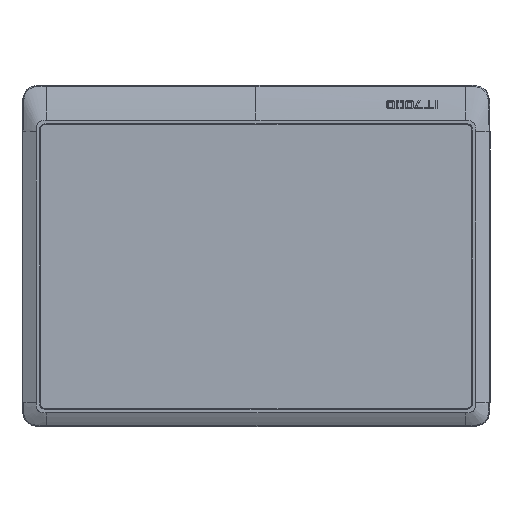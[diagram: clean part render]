
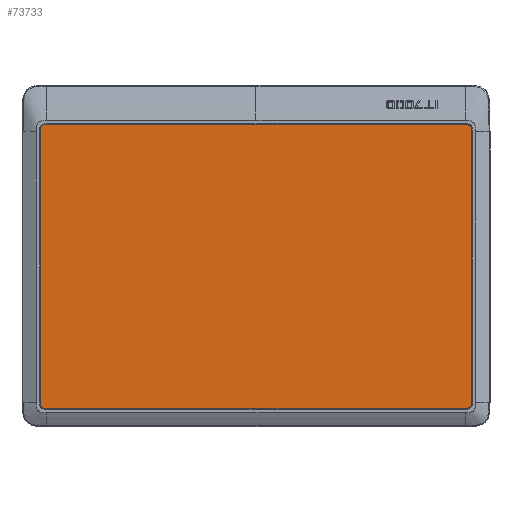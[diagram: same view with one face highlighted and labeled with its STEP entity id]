
A CAD part, top view. The second image highlights one B-rep face of the part: STEP entity #73733.
In plain terms, the highlighted planar face has unit normal (0, 0, 1).
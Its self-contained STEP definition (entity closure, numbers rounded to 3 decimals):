
#5572=DIRECTION('',(-1.,0.,0.));
#5573=VECTOR('',#5572,179.55);
#5574=CARTESIAN_POINT('',(89.775,-57.73,3.5));
#5575=LINE('',#5574,#5573);
#5576=CARTESIAN_POINT('',(-89.775,-55.23,3.5));
#5577=DIRECTION('',(0.,0.,-1.));
#5578=DIRECTION('',(0.,-1.,0.));
#5579=AXIS2_PLACEMENT_3D('',#5576,#5577,#5578);
#5581=DIRECTION('',(0.,1.,0.));
#5582=VECTOR('',#5581,116.55);
#5583=CARTESIAN_POINT('',(-92.275,-55.23,3.5));
#5584=LINE('',#5583,#5582);
#5585=CARTESIAN_POINT('',(-89.775,61.32,3.5));
#5586=DIRECTION('',(0.,0.,-1.));
#5587=DIRECTION('',(-1.,0.,0.));
#5588=AXIS2_PLACEMENT_3D('',#5585,#5586,#5587);
#5590=DIRECTION('',(1.,0.,0.));
#5591=VECTOR('',#5590,179.55);
#5592=CARTESIAN_POINT('',(-89.775,63.82,3.5));
#5593=LINE('',#5592,#5591);
#5594=CARTESIAN_POINT('',(89.775,61.32,3.5));
#5595=DIRECTION('',(0.,0.,-1.));
#5596=DIRECTION('',(0.,1.,0.));
#5597=AXIS2_PLACEMENT_3D('',#5594,#5595,#5596);
#5599=DIRECTION('',(0.,-1.,0.));
#5600=VECTOR('',#5599,116.55);
#5601=CARTESIAN_POINT('',(92.275,61.32,3.5));
#5602=LINE('',#5601,#5600);
#5603=CARTESIAN_POINT('',(89.775,-55.23,3.5));
#5604=DIRECTION('',(0.,0.,-1.));
#5605=DIRECTION('',(1.,0.,0.));
#5606=AXIS2_PLACEMENT_3D('',#5603,#5604,#5605);
#56703=CARTESIAN_POINT('',(-89.775,-57.73,3.5));
#56704=VERTEX_POINT('',#56703);
#56705=CARTESIAN_POINT('',(89.775,-57.73,3.5));
#56706=VERTEX_POINT('',#56705);
#56707=CARTESIAN_POINT('',(-92.275,-55.23,3.5));
#56708=VERTEX_POINT('',#56707);
#56709=CARTESIAN_POINT('',(-92.275,61.32,3.5));
#56710=VERTEX_POINT('',#56709);
#56711=CARTESIAN_POINT('',(-89.775,63.82,3.5));
#56712=VERTEX_POINT('',#56711);
#56713=CARTESIAN_POINT('',(89.775,63.82,3.5));
#56714=VERTEX_POINT('',#56713);
#56715=CARTESIAN_POINT('',(92.275,61.32,3.5));
#56716=VERTEX_POINT('',#56715);
#56717=CARTESIAN_POINT('',(92.275,-55.23,3.5));
#56718=VERTEX_POINT('',#56717);
#73718=CARTESIAN_POINT('',(0.,0.6,3.5));
#73719=DIRECTION('',(0.,0.,1.));
#73720=DIRECTION('',(-1.,0.,0.));
#73721=AXIS2_PLACEMENT_3D('',#73718,#73719,#73720);
#73722=PLANE('',#73721);
#73723=ORIENTED_EDGE('',*,*,#73558,.T.);
#73724=ORIENTED_EDGE('',*,*,#73580,.T.);
#73725=ORIENTED_EDGE('',*,*,#73601,.T.);
#73726=ORIENTED_EDGE('',*,*,#73622,.T.);
#73727=ORIENTED_EDGE('',*,*,#73643,.T.);
#73728=ORIENTED_EDGE('',*,*,#73664,.T.);
#73729=ORIENTED_EDGE('',*,*,#73685,.T.);
#73730=ORIENTED_EDGE('',*,*,#73705,.T.);
#73731=EDGE_LOOP('',(#73723,#73724,#73725,#73726,#73727,#73728,#73729,#73730));
#73732=FACE_OUTER_BOUND('',#73731,.F.);
#73733=ADVANCED_FACE('',(#73732),#73722,.T.);
#5580=CIRCLE('',#5579,2.5);
#5589=CIRCLE('',#5588,2.5);
#5598=CIRCLE('',#5597,2.5);
#5607=CIRCLE('',#5606,2.5);
#73558=EDGE_CURVE('',#56706,#56704,#5575,.T.);
#73580=EDGE_CURVE('',#56704,#56708,#5580,.T.);
#73601=EDGE_CURVE('',#56708,#56710,#5584,.T.);
#73622=EDGE_CURVE('',#56710,#56712,#5589,.T.);
#73643=EDGE_CURVE('',#56712,#56714,#5593,.T.);
#73664=EDGE_CURVE('',#56714,#56716,#5598,.T.);
#73685=EDGE_CURVE('',#56716,#56718,#5602,.T.);
#73705=EDGE_CURVE('',#56718,#56706,#5607,.T.);
